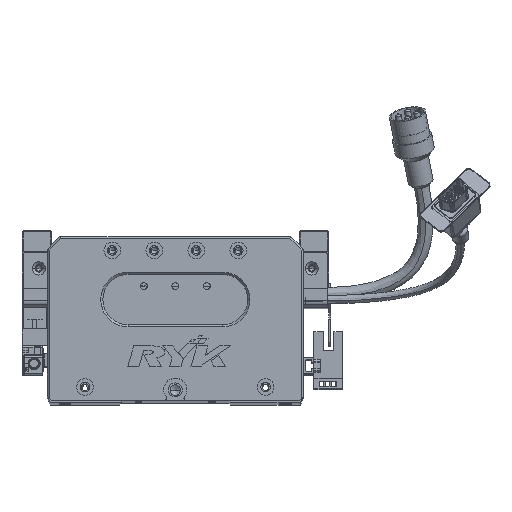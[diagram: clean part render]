
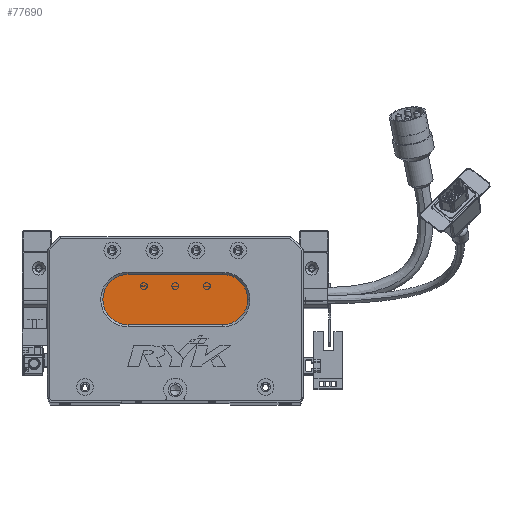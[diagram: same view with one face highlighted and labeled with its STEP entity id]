
A CAD part, top view. The second image highlights one B-rep face of the part: STEP entity #77690.
In plain terms, the highlighted planar face has unit normal (0, 0, 1) as drawn and (0, 0, -1) by its records, which use the part's own axes.
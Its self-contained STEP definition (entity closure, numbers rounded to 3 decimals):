
#2521 = CIRCLE ( 'NONE', #15377, 12. ) ;
#2861 = AXIS2_PLACEMENT_3D ( 'NONE', #77324, #71766, #29182 ) ;
#3069 = CIRCLE ( 'NONE', #60438, 12. ) ;
#4610 = CARTESIAN_POINT ( 'NONE',  ( 83.5, 36., 13. ) ) ;
#7760 = DIRECTION ( 'NONE',  ( -1., 0., 0. ) ) ;
#7960 = ORIENTED_EDGE ( 'NONE', *, *, #50933, .T. ) ;
#13278 = DIRECTION ( 'NONE',  ( -1., 0., 0. ) ) ;
#14249 = LINE ( 'NONE', #60847, #63442 ) ;
#15377 = AXIS2_PLACEMENT_3D ( 'NONE', #31571, #73887, #7760 ) ;
#17237 = EDGE_CURVE ( 'NONE', #74179, #42964, #44645, .T. ) ;
#18048 = EDGE_CURVE ( 'NONE', #38254, #73817, #14249, .T. ) ;
#21279 = FACE_OUTER_BOUND ( 'NONE', #31089, .T. ) ;
#22646 = ORIENTED_EDGE ( 'NONE', *, *, #17237, .T. ) ;
#22917 = CARTESIAN_POINT ( 'NONE',  ( 83.5, 36., 13. ) ) ;
#24584 = DIRECTION ( 'NONE',  ( 1., 0., 0. ) ) ;
#24835 = CARTESIAN_POINT ( 'NONE',  ( 83.5, 60., 13. ) ) ;
#25841 = ORIENTED_EDGE ( 'NONE', *, *, #64773, .T. ) ;
#27592 = DIRECTION ( 'NONE',  ( -1., 0., 0. ) ) ;
#27729 = EDGE_CURVE ( 'NONE', #39546, #38254, #3069, .T. ) ;
#29182 = DIRECTION ( 'NONE',  ( -1., 0., 0. ) ) ;
#29448 = PLANE ( 'NONE',  #2861 ) ;
#31089 = EDGE_LOOP ( 'NONE', ( #25841, #22646, #7960, #35013, #64907 ) ) ;
#31272 = DIRECTION ( 'NONE',  ( 0., 0., -1. ) ) ;
#31571 = CARTESIAN_POINT ( 'NONE',  ( 83.5, 48., 13. ) ) ;
#35013 = ORIENTED_EDGE ( 'NONE', *, *, #27729, .T. ) ;
#38254 = VERTEX_POINT ( 'NONE', #76514 ) ;
#39540 = DIRECTION ( 'NONE',  ( 0., 0., -1. ) ) ;
#39546 = VERTEX_POINT ( 'NONE', #42731 ) ;
#42731 = CARTESIAN_POINT ( 'NONE',  ( 26.5, 48., 13. ) ) ;
#42964 = VERTEX_POINT ( 'NONE', #50022 ) ;
#44645 = LINE ( 'NONE', #4610, #60594 ) ;
#48765 = CARTESIAN_POINT ( 'NONE',  ( 38.5, 48., 13. ) ) ;
#50022 = CARTESIAN_POINT ( 'NONE',  ( 38.5, 36., 13. ) ) ;
#50671 = CIRCLE ( 'NONE', #58578, 12. ) ;
#50933 = EDGE_CURVE ( 'NONE', #42964, #39546, #50671, .T. ) ;
#51922 = CARTESIAN_POINT ( 'NONE',  ( 38.5, 48., 13. ) ) ;
#58578 = AXIS2_PLACEMENT_3D ( 'NONE', #48765, #31272, #13278 ) ;
#60438 = AXIS2_PLACEMENT_3D ( 'NONE', #51922, #39540, #27592 ) ;
#60594 = VECTOR ( 'NONE', #71548, 1000. ) ;
#60847 = CARTESIAN_POINT ( 'NONE',  ( 83.5, 60., 13. ) ) ;
#63442 = VECTOR ( 'NONE', #24584, 1000. ) ;
#64773 = EDGE_CURVE ( 'NONE', #73817, #74179, #2521, .T. ) ;
#64907 = ORIENTED_EDGE ( 'NONE', *, *, #18048, .T. ) ;
#71548 = DIRECTION ( 'NONE',  ( -1., 0., 0. ) ) ;
#71766 = DIRECTION ( 'NONE',  ( 0., 0., -1. ) ) ;
#73817 = VERTEX_POINT ( 'NONE', #24835 ) ;
#73887 = DIRECTION ( 'NONE',  ( 0., 0., -1. ) ) ;
#74179 = VERTEX_POINT ( 'NONE', #22917 ) ;
#76514 = CARTESIAN_POINT ( 'NONE',  ( 38.5, 60., 13. ) ) ;
#77324 = CARTESIAN_POINT ( 'NONE',  ( 83.5, 48., 13. ) ) ;
#77690 = ADVANCED_FACE ( 'NONE', ( #21279 ), #29448, .T. ) ;
